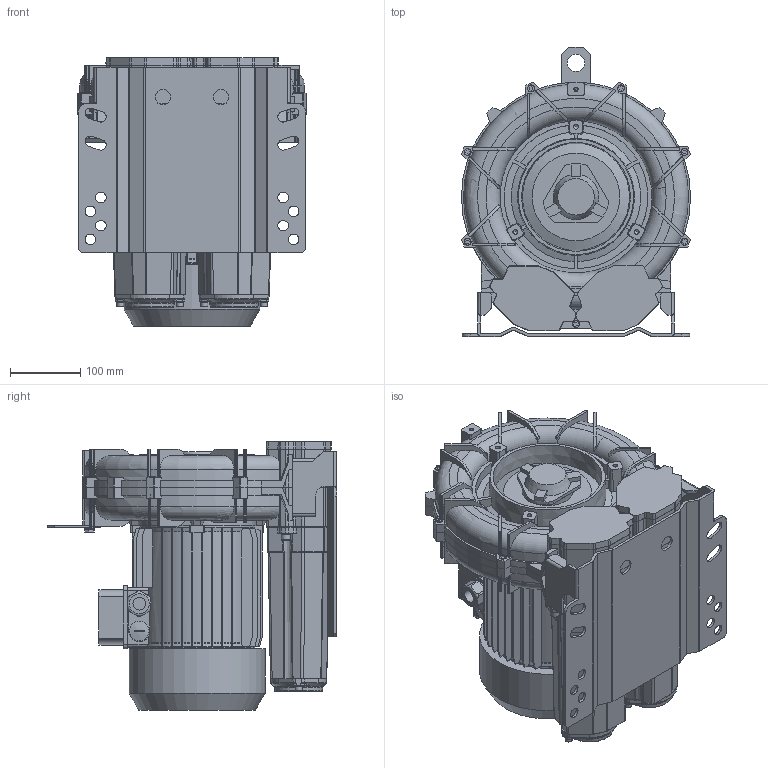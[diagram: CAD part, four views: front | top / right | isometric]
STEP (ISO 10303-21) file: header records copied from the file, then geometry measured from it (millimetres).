
FILE_DESCRIPTION (( 'STEP AP203' ), '1' );
FILE_NAME ('STP-L_e_05_MS_MOR_IE3WR_100_3.0kW-3_25-00.step', '2025-04-30T09:49:32', ( '' ), ( '' ), 'SwSTEP 2.0', 'SolidWorks 2024', '' );
FILE_SCHEMA (( 'CONFIG_CONTROL_DESIGN' ));
Products named in the file (1): STP-L_e_05_MS_MOR_IE3WR_100_3.0kW-3_25-00
Bounding box: 327 x 412.5 x 383.1 mm (x, y, z)
Volume: 17204732.7 mm3; surface area: 1565345.8 mm2
Topology: 69 solids, 69 shells, 3075 faces, 8162 edges, 5223 vertices
Faces by surface type: plane 1515, cylinder 802, cone 330, bspline 223, torus 204, sphere 1
Full cylindrical faces by diameter (mm): 4 x8, 4.917 x7, 5 x10, 6 x15, 6.4 x15, 6.8 x3, 7.5 x4, 8 x5, 8.4 x5, 8.5 x5, 10 x30, 13 x10, 15 x8, 18 x2, 20 x1, 21.4 x1, 22 x2, 24 x4, 25 x4, 28 x1, 57 x2, 73 x2, 156 x1, 165 x1, 194 x1
Entity records: 100349 total; most frequent: CARTESIAN_POINT 27670, ORIENTED_EDGE 15332, DIRECTION 14510, EDGE_CURVE 7666, AXIS2_PLACEMENT_3D 5224, VERTEX_POINT 5102, VECTOR 4062, LINE 4062
